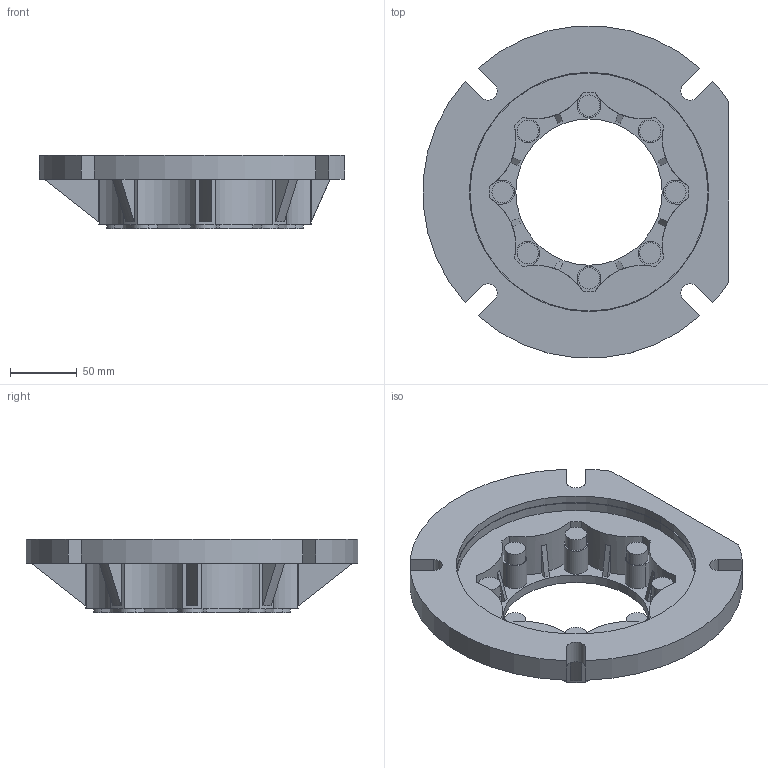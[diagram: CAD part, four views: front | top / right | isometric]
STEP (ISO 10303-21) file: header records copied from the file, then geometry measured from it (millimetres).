
FILE_DESCRIPTION(/* description */ (''),/* implementation_level */ '2;1');
FILE_NAME(/* name */ '2_FLANGIA (CAMPANA) LATERALE FB NMRV-P090',/* time_stamp */ '2025-10-09T15:23:49+02:00',/* author */ (''),/* organization */ (''),/* preprocessor_version */ 'ST-DEVELOPER v19.2',/* originating_system */ 'Rhino 8.23',/* authorisation */ '');
FILE_SCHEMA (('CONFIG_CONTROL_DESIGN'));
Length unit declared in the file: millimetre
Products named in the file (2): Document; FU 90FB-p
Bounding box: 229.59 x 249.18 x 55 mm (x, y, z)
Volume: 638197.8 mm3; surface area: 148606.5 mm2
Topology: 1 solids, 1 shells, 215 faces, 592 edges, 392 vertices
Faces by surface type: plane 112, cylinder 87, bspline 16
Entity records: 9378 total; most frequent: CARTESIAN_POINT 2393, ORIENTED_EDGE 1184, DIRECTION 731, EDGE_CURVE 592, AXIS2_PLACEMENT_3D 465, VERTEX_POINT 392, B_SPLINE_CURVE_WITH_KNOTS 330, TRIMMED_CURVE 262
